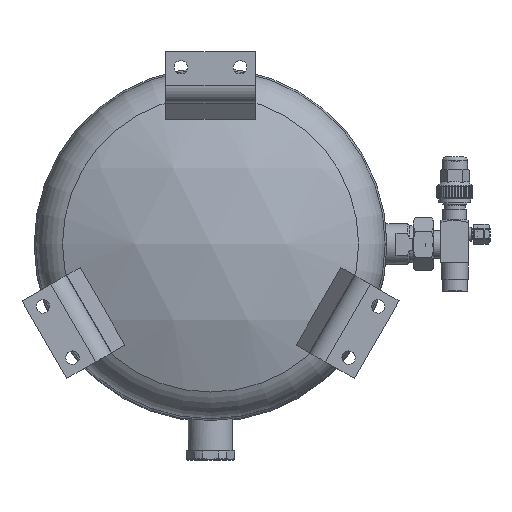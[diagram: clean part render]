
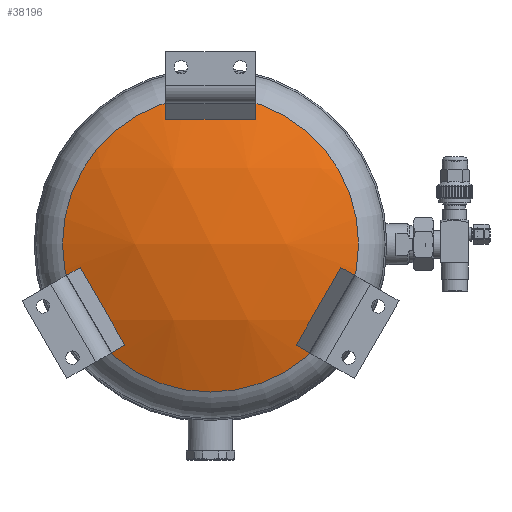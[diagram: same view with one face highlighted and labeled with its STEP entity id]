
A CAD part, top view. The second image highlights one B-rep face of the part: STEP entity #38196.
In plain terms, the highlighted spherical face has radius 281 mm.
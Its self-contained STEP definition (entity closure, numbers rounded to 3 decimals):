
#8389=SPHERICAL_SURFACE('',#41351,281.);
#10828=FACE_OUTER_BOUND('',#13221,.T.);
#13221=EDGE_LOOP('',(#34237));
#14762=CIRCLE('',#41350,115.74);
#18997=VERTEX_POINT('',#73496);
#24217=EDGE_CURVE('',#18997,#18997,#14762,.T.);
#34237=ORIENTED_EDGE('',*,*,#24217,.T.);
#38196=ADVANCED_FACE('',(#10828),#8389,.T.);
#41350=AXIS2_PLACEMENT_3D('',#73497,#49659,#49660);
#41351=AXIS2_PLACEMENT_3D('',#73498,#49661,#49662);
#49659=DIRECTION('center_axis',(0.,0.,1.));
#49660=DIRECTION('ref_axis',(-1.,0.,0.));
#49661=DIRECTION('center_axis',(0.,-1.,0.));
#49662=DIRECTION('ref_axis',(1.,0.,0.));
#73496=CARTESIAN_POINT('',(-115.74,0.,571.329));
#73497=CARTESIAN_POINT('Origin',(0.,0.,
571.329));
#73498=CARTESIAN_POINT('Origin',(0.,0.,
315.272));
